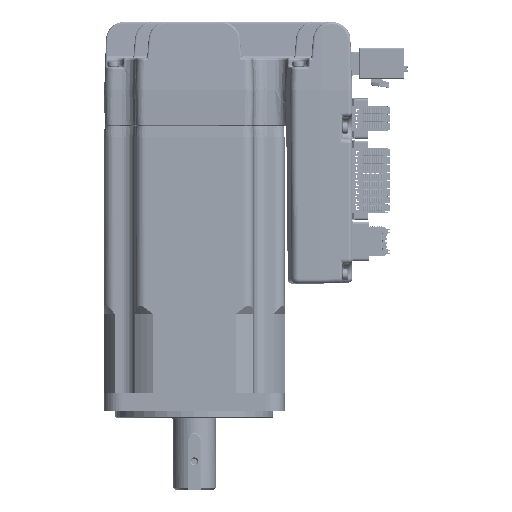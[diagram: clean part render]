
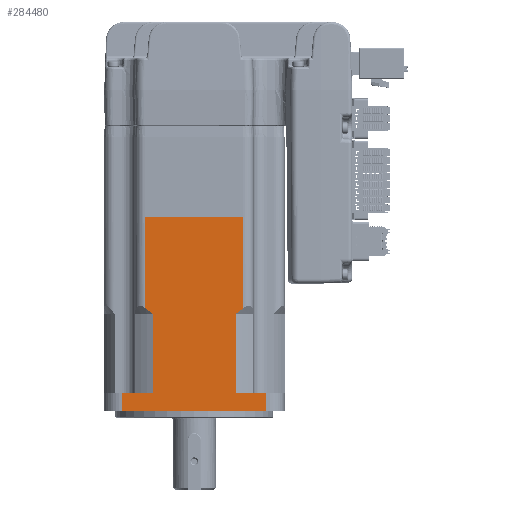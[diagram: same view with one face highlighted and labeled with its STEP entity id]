
A CAD part, left-side view. The second image highlights one B-rep face of the part: STEP entity #284480.
In plain terms, the highlighted planar face has unit normal (-1, 0, 0).
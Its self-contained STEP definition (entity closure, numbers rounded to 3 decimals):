
#278710=DIRECTION('',(0.,0.,1.));
#278711=VECTOR('',#278710,40.348);
#278712=CARTESIAN_POINT('',(1.941,20.191,
-90.448));
#278713=LINE('',#278712,#278711);
#278723=DIRECTION('',(0.,-1.,0.));
#278724=VECTOR('',#278723,13.67);
#278725=CARTESIAN_POINT('',(1.941,23.611,-128.1));
#278726=LINE('',#278725,#278724);
#278727=DIRECTION('',(0.,1.,0.));
#278728=VECTOR('',#278727,64.);
#278729=CARTESIAN_POINT('',(1.941,9.941,-136.1));
#278730=LINE('',#278729,#278728);
#278731=DIRECTION('',(0.,-1.,0.));
#278732=VECTOR('',#278731,13.67);
#278733=CARTESIAN_POINT('',(1.941,73.941,-128.1));
#278734=LINE('',#278733,#278732);
#278735=DIRECTION('',(0.,-1.,0.));
#278736=VECTOR('',#278735,43.5);
#278737=CARTESIAN_POINT('',(1.941,63.691,-50.1));
#278738=LINE('',#278737,#278736);
#278743=DIRECTION('',(0.,0.,1.));
#278744=VECTOR('',#278743,35.);
#278745=CARTESIAN_POINT('',(1.941,23.611,-128.1));
#278746=LINE('',#278745,#278744);
#278747=CARTESIAN_POINT('',(1.941,23.611,-93.1));
#278748=CARTESIAN_POINT('',(1.941,23.232,
-92.827));
#278749=CARTESIAN_POINT('',(1.941,22.473,
-92.265));
#278750=CARTESIAN_POINT('',(1.941,21.334,
-91.381));
#278751=CARTESIAN_POINT('',(1.941,20.573,
-90.764));
#278752=CARTESIAN_POINT('',(1.941,20.191,
-90.448));
#278791=DIRECTION('',(0.,0.,1.));
#278792=VECTOR('',#278791,8.);
#278793=CARTESIAN_POINT('',(1.941,9.941,-136.1));
#278794=LINE('',#278793,#278792);
#279286=DIRECTION('',(0.,0.,-1.));
#279287=VECTOR('',#279286,8.);
#279288=CARTESIAN_POINT('',(1.941,73.941,-128.1));
#279289=LINE('',#279288,#279287);
#279349=DIRECTION('',(0.,0.,-1.));
#279350=VECTOR('',#279349,35.);
#279351=CARTESIAN_POINT('',(1.941,60.272,-93.1));
#279352=LINE('',#279351,#279350);
#279364=CARTESIAN_POINT('',(1.941,63.691,
-90.448));
#279365=CARTESIAN_POINT('',(1.941,63.31,
-90.764));
#279366=CARTESIAN_POINT('',(1.941,62.548,
-91.381));
#279367=CARTESIAN_POINT('',(1.941,61.409,
-92.265));
#279368=CARTESIAN_POINT('',(1.941,60.65,
-92.827));
#279369=CARTESIAN_POINT('',(1.941,60.272,-93.1));
#279385=DIRECTION('',(0.,0.,-1.));
#279386=VECTOR('',#279385,40.348);
#279387=CARTESIAN_POINT('',(1.941,63.691,-50.1));
#279388=LINE('',#279387,#279386);
#283108=CARTESIAN_POINT('',(1.941,73.941,-136.1));
#283109=VERTEX_POINT('',#283108);
#283110=CARTESIAN_POINT('',(1.941,9.941,-136.1));
#283111=VERTEX_POINT('',#283110);
#283173=CARTESIAN_POINT('',(1.941,20.191,-50.1));
#283174=VERTEX_POINT('',#283173);
#283175=CARTESIAN_POINT('',(1.941,63.691,-50.1));
#283176=VERTEX_POINT('',#283175);
#283219=CARTESIAN_POINT('',(1.941,9.941,-128.1));
#283220=VERTEX_POINT('',#283219);
#283221=CARTESIAN_POINT('',(1.941,23.611,-128.1));
#283222=VERTEX_POINT('',#283221);
#283231=CARTESIAN_POINT('',(1.941,20.191,
-90.448));
#283232=VERTEX_POINT('',#283231);
#283233=CARTESIAN_POINT('',(1.941,23.611,-93.1));
#283234=VERTEX_POINT('',#283233);
#283235=CARTESIAN_POINT('',(1.941,73.941,-128.1));
#283236=VERTEX_POINT('',#283235);
#283237=CARTESIAN_POINT('',(1.941,60.272,-128.1));
#283238=VERTEX_POINT('',#283237);
#283239=CARTESIAN_POINT('',(1.941,60.272,-93.1));
#283240=VERTEX_POINT('',#283239);
#283241=VERTEX_POINT('',#279364);
#284452=CARTESIAN_POINT('',(1.941,81.941,-128.1));
#284453=DIRECTION('',(1.,0.,0.));
#284454=DIRECTION('',(0.,1.,0.));
#284455=AXIS2_PLACEMENT_3D('',#284452,#284453,#284454);
#284456=PLANE('',#284455);
#284458=ORIENTED_EDGE('',*,*,#284457,.F.);
#284459=ORIENTED_EDGE('',*,*,#284406,.T.);
#284461=ORIENTED_EDGE('',*,*,#284460,.F.);
#284462=ORIENTED_EDGE('',*,*,#284251,.T.);
#284464=ORIENTED_EDGE('',*,*,#284463,.F.);
#284466=ORIENTED_EDGE('',*,*,#284465,.T.);
#284468=ORIENTED_EDGE('',*,*,#284467,.F.);
#284470=ORIENTED_EDGE('',*,*,#284469,.F.);
#284472=ORIENTED_EDGE('',*,*,#284471,.F.);
#284474=ORIENTED_EDGE('',*,*,#284473,.T.);
#284475=ORIENTED_EDGE('',*,*,#284442,.F.);
#284477=ORIENTED_EDGE('',*,*,#284476,.F.);
#284478=EDGE_LOOP('',(#284458,#284459,#284461,#284462,#284464,#284466,#284468,
#284470,#284472,#284474,#284475,#284477));
#284479=FACE_OUTER_BOUND('',#284478,.F.);
#284480=ADVANCED_FACE('',(#284479),#284456,.F.);
#278753=B_SPLINE_CURVE_WITH_KNOTS('',3,(#278747,#278748,#278749,#278750,#278751,
#278752),.UNSPECIFIED.,.F.,.F.,(4,1,1,4),(0.,0.333,
0.667,1.),.UNSPECIFIED.);
#279370=B_SPLINE_CURVE_WITH_KNOTS('',3,(#279364,#279365,#279366,#279367,#279368,
#279369),.UNSPECIFIED.,.F.,.F.,(4,1,1,4),(0.,0.333,
0.667,1.),.UNSPECIFIED.);
#284251=EDGE_CURVE('',#283111,#283109,#278730,.T.);
#284406=EDGE_CURVE('',#283222,#283220,#278726,.T.);
#284442=EDGE_CURVE('',#283232,#283174,#278713,.T.);
#284457=EDGE_CURVE('',#283222,#283234,#278746,.T.);
#284460=EDGE_CURVE('',#283111,#283220,#278794,.T.);
#284463=EDGE_CURVE('',#283236,#283109,#279289,.T.);
#284465=EDGE_CURVE('',#283236,#283238,#278734,.T.);
#284467=EDGE_CURVE('',#283240,#283238,#279352,.T.);
#284469=EDGE_CURVE('',#283241,#283240,#279370,.T.);
#284471=EDGE_CURVE('',#283176,#283241,#279388,.T.);
#284473=EDGE_CURVE('',#283176,#283174,#278738,.T.);
#284476=EDGE_CURVE('',#283234,#283232,#278753,.T.);
